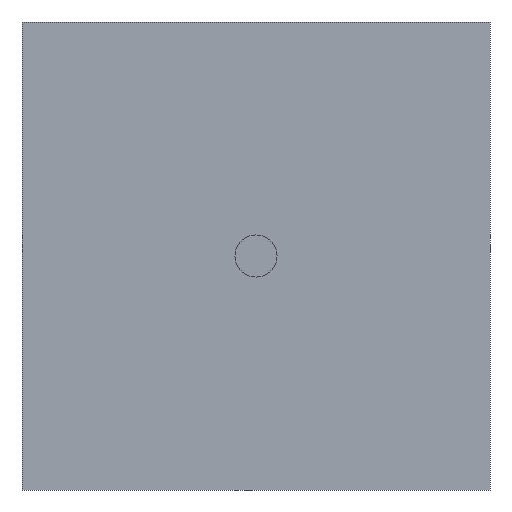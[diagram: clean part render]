
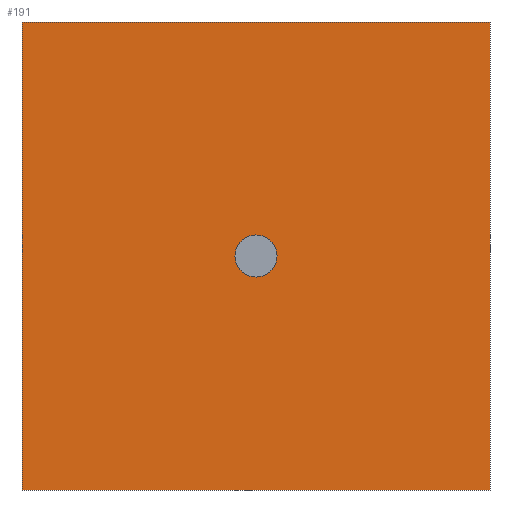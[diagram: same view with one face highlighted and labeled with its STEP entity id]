
A CAD part, front view. The second image highlights one B-rep face of the part: STEP entity #191.
In plain terms, the highlighted planar face has unit normal (0, -1, 0).
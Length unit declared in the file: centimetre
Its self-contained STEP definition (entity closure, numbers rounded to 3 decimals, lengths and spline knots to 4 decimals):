
#21=FACE_BOUND('',#56,.T.);
#28=CIRCLE('',#205,0.9);
#39=FACE_OUTER_BOUND('',#55,.T.);
#55=EDGE_LOOP('',(#148,#149,#150,#151));
#56=EDGE_LOOP('',(#152));
#70=LINE('',#297,#82);
#73=LINE('',#302,#85);
#75=LINE('',#306,#87);
#76=LINE('',#308,#88);
#82=VECTOR('',#242,20.);
#85=VECTOR('',#247,20.);
#87=VECTOR('',#251,20.);
#88=VECTOR('',#254,20.);
#96=VERTEX_POINT('',#291);
#97=VERTEX_POINT('',#294);
#98=VERTEX_POINT('',#296);
#99=VERTEX_POINT('',#300);
#100=VERTEX_POINT('',#304);
#111=EDGE_CURVE('',#96,#96,#28,.T.);
#113=EDGE_CURVE('',#97,#98,#70,.T.);
#116=EDGE_CURVE('',#99,#97,#73,.T.);
#118=EDGE_CURVE('',#100,#99,#75,.T.);
#119=EDGE_CURVE('',#98,#100,#76,.T.);
#148=ORIENTED_EDGE('',*,*,#119,.F.);
#149=ORIENTED_EDGE('',*,*,#113,.F.);
#150=ORIENTED_EDGE('',*,*,#116,.F.);
#151=ORIENTED_EDGE('',*,*,#118,.F.);
#152=ORIENTED_EDGE('',*,*,#111,.T.);
#167=PLANE('',#210);
#191=ADVANCED_FACE('',(#39,#21),#167,.F.);
#205=AXIS2_PLACEMENT_3D('',#292,#237,#238);
#210=AXIS2_PLACEMENT_3D('',#309,#255,#256);
#237=DIRECTION('center_axis',(0.,1.,0.));
#238=DIRECTION('ref_axis',(1.,0.,0.));
#242=DIRECTION('',(0.,0.,1.));
#247=DIRECTION('',(-1.,0.,0.));
#251=DIRECTION('',(0.,0.,-1.));
#254=DIRECTION('',(1.,0.,0.));
#255=DIRECTION('center_axis',(0.,1.,0.));
#256=DIRECTION('ref_axis',(0.,0.,-1.));
#291=CARTESIAN_POINT('',(-0.9,-2.162,0.));
#292=CARTESIAN_POINT('Origin',(0.,-2.162,0.));
#294=CARTESIAN_POINT('',(-10.,-2.162,-10.));
#296=CARTESIAN_POINT('',(-10.,-2.162,10.));
#297=CARTESIAN_POINT('',(-10.,-2.162,-10.));
#300=CARTESIAN_POINT('',(10.,-2.162,-10.));
#302=CARTESIAN_POINT('',(10.,-2.162,-10.));
#304=CARTESIAN_POINT('',(10.,-2.162,10.));
#306=CARTESIAN_POINT('',(10.,-2.162,10.));
#308=CARTESIAN_POINT('',(-10.,-2.162,10.));
#309=CARTESIAN_POINT('Origin',(0.,-2.162,0.));
